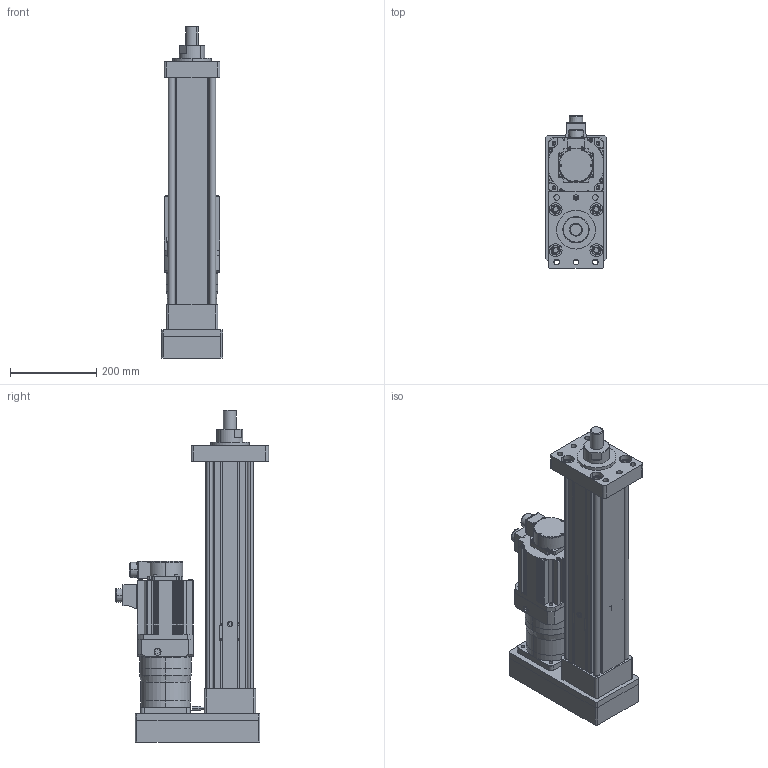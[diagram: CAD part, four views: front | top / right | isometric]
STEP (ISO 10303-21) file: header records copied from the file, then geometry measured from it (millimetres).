
FILE_DESCRIPTION (( 'STEP AP203' ), '1' );
FILE_NAME ('RKF110-P-FA-B3.STEP', '2025-01-23T10:58:12', ( '' ), ( '' ), 'SwSTEP 2.0', 'SolidWorks 2024', '' );
FILE_SCHEMA (( 'CONFIG_CONTROL_DESIGN' ));
Length unit declared in the file: millimetre
Products named in the file (14): 复件 M14_1^RKF110-P-FA-B3; 复件 111-前法兰安装_1^RKF110-P-FA-B3; 复件 伺服电机130x130^RKF110-P-FA-B3; 复件 111-缸筒_1^RKF110-P-FA-B3; 复件 后支撑^RKF110-P-FA-B3; 复件 111-后法兰_1^RKF110-P-FA-B3; 复件 拉杆_1^RKF110-P-FA-B3; 复件 调节螺柱_1^RKF110-P-FA-B3; 复件 PLF120-L2减速机^RKF110-P-FA-B3; 复件 后盖^RKF110-P-FA-B3; RKF110-P-FA-B3; 复件 活塞_1^RKF110-P-FA-B3; 复件 限位开关_1^RKF110-P-FA-B3; 复件 油堵_KM080010_1^RKF110-P-FA-B3
Assembly tree (21 placements, depth 2):
  RKF110-P-FA-B3
    复件 111-缸筒_1^RKF110-P-FA-B3
    复件 111-后法兰_1^RKF110-P-FA-B3
    复件 后盖^RKF110-P-FA-B3
    复件 后支撑^RKF110-P-FA-B3
    复件 活塞_1^RKF110-P-FA-B3
    复件 拉杆_1^RKF110-P-FA-B3  x5
    复件 调节螺柱_1^RKF110-P-FA-B3
    复件 111-前法兰安装_1^RKF110-P-FA-B3
    复件 油堵_KM080010_1^RKF110-P-FA-B3
    复件 M14_1^RKF110-P-FA-B3  x4
    复件 限位开关_1^RKF110-P-FA-B3  x2
    复件 PLF120-L2减速机^RKF110-P-FA-B3
    复件 伺服电机130x130^RKF110-P-FA-B3
Bounding box: 142 x 356 x 772 mm (x, y, z)
Volume: 10594613.5 mm3; surface area: 1398133 mm2
Topology: 26 solids, 27 shells, 1424 faces, 3715 edges, 2422 vertices
Faces by surface type: plane 626, cylinder 590, bspline 107, cone 96, sphere 3, torus 2
Entity records: 49433 total; most frequent: CARTESIAN_POINT 15303, ORIENTED_EDGE 6974, DIRECTION 6449, EDGE_CURVE 3487, VERTEX_POINT 2300, AXIS2_PLACEMENT_3D 2281, LINE 1887, VECTOR 1887
